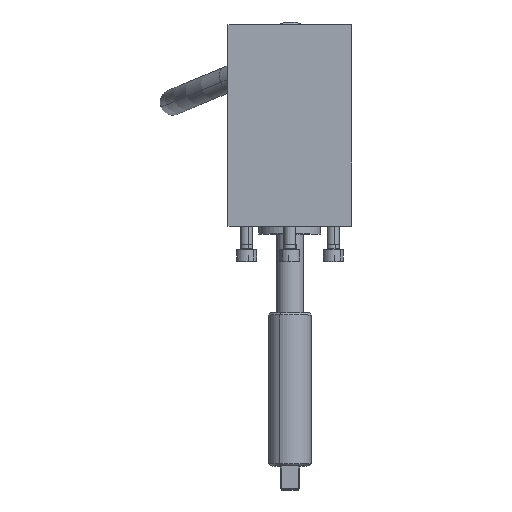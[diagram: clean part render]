
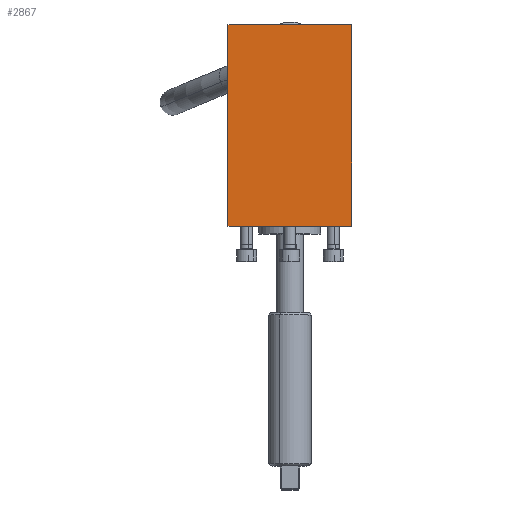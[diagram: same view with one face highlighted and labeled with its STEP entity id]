
A CAD part, top view. The second image highlights one B-rep face of the part: STEP entity #2867.
In plain terms, the highlighted planar face has unit normal (0, 0, 1).
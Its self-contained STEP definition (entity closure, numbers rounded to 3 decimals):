
#2730=CARTESIAN_POINT('Vertex',(40.,-58.2,439.1)) ;
#2735=CARTESIAN_POINT('Line Origine',(0.,-58.2,439.1)) ;
#2739=CARTESIAN_POINT('Vertex',(-40.,-58.2,439.1)) ;
#2837=CARTESIAN_POINT('Axis2P3D Location',(-40.,72.,439.1)) ;
#2842=CARTESIAN_POINT('Line Origine',(40.,6.9,439.1)) ;
#2846=CARTESIAN_POINT('Vertex',(40.,72.,439.1)) ;
#2849=CARTESIAN_POINT('Line Origine',(0.,72.,439.1)) ;
#2853=CARTESIAN_POINT('Vertex',(-40.,72.,439.1)) ;
#2856=CARTESIAN_POINT('Line Origine',(-40.,6.9,439.1)) ;
#2736=DIRECTION('Vector Direction',(1.,0.,0.)) ;
#2838=DIRECTION('Axis2P3D Direction',(0.,0.,-1.)) ;
#2839=DIRECTION('Axis2P3D XDirection',(1.,0.,0.)) ;
#2843=DIRECTION('Vector Direction',(0.,-1.,0.)) ;
#2850=DIRECTION('Vector Direction',(1.,0.,0.)) ;
#2857=DIRECTION('Vector Direction',(0.,-1.,0.)) ;
#2840=AXIS2_PLACEMENT_3D('Plane Axis2P3D',#2837,#2838,#2839) ;
#2862=ORIENTED_EDGE('',*,*,#2741,.T.) ;
#2863=ORIENTED_EDGE('',*,*,#2848,.F.) ;
#2864=ORIENTED_EDGE('',*,*,#2855,.F.) ;
#2865=ORIENTED_EDGE('',*,*,#2860,.T.) ;
#2737=VECTOR('Line Direction',#2736,1.) ;
#2844=VECTOR('Line Direction',#2843,1.) ;
#2851=VECTOR('Line Direction',#2850,1.) ;
#2858=VECTOR('Line Direction',#2857,1.) ;
#2867=ADVANCED_FACE('',(#2866),#2841,.F.) ;
#2741=EDGE_CURVE('',#2740,#2731,#2738,.T.) ;
#2848=EDGE_CURVE('',#2847,#2731,#2845,.T.) ;
#2855=EDGE_CURVE('',#2854,#2847,#2852,.T.) ;
#2860=EDGE_CURVE('',#2854,#2740,#2859,.T.) ;
#2861=EDGE_LOOP('',(#2862,#2863,#2864,#2865)) ;
#2866=FACE_OUTER_BOUND('',#2861,.T.) ;
#2738=LINE('Line',#2735,#2737) ;
#2845=LINE('Line',#2842,#2844) ;
#2852=LINE('Line',#2849,#2851) ;
#2859=LINE('Line',#2856,#2858) ;
#2841=PLANE('Plane',#2840) ;
#2731=VERTEX_POINT('',#2730) ;
#2740=VERTEX_POINT('',#2739) ;
#2847=VERTEX_POINT('',#2846) ;
#2854=VERTEX_POINT('',#2853) ;
